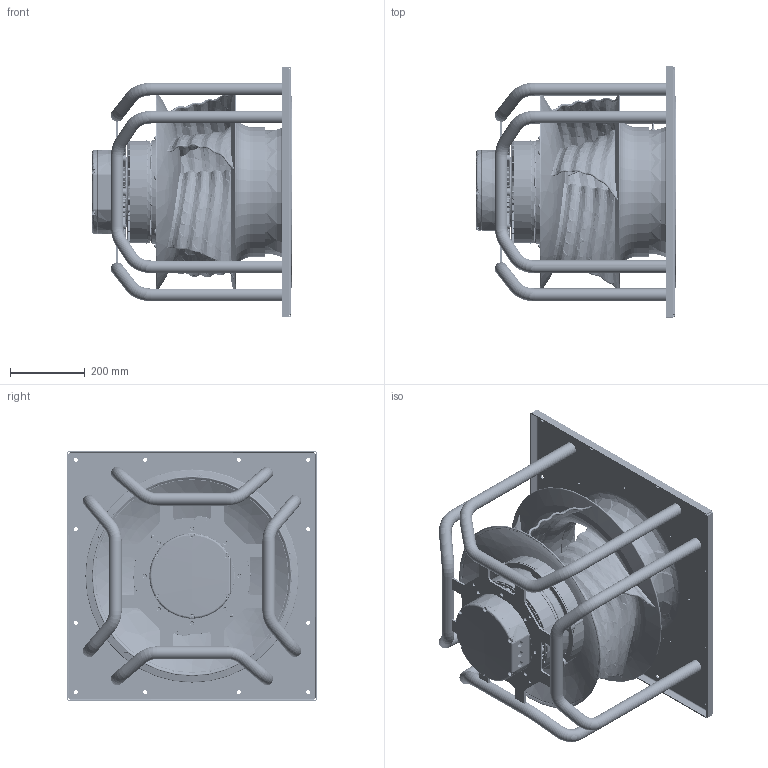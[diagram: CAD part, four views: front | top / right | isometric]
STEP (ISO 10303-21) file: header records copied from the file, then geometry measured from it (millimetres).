
FILE_DESCRIPTION((''),'2;1');
FILE_NAME('ZAC_08-44-17-KM','2019-01-25T',('hummt'),(''),'CREO PARAMETRIC BY PTC INC, 2017170','CREO PARAMETRIC BY PTC INC, 2017170','');
FILE_SCHEMA(('AUTOMOTIVE_DESIGN { 1 0 10303 214 1 1 1 1 }'));
Length unit declared in the file: millimetre
Products named in the file (1): ZAC_08-44-17-KM
Bounding box: 535.5 x 670 x 670 mm (x, y, z)
Volume: 16205876.2 mm3; surface area: 4203823.8 mm2
Topology: 2 solids, 2 shells, 7741 faces, 19519 edges, 11882 vertices
Faces by surface type: bspline 2238, plane 1785, cylinder 1268, torus 1139, cone 827, extrusion 434, sphere 42, revolution 8
Entity records: 464347 total; most frequent: CARTESIAN_POINT 285917, ORIENTED_EDGE 39028, DIRECTION 30478, EDGE_CURVE 19514, AXIS2_PLACEMENT_3D 12504, VERTEX_POINT 11882, EDGE_LOOP 8106, FACE_OUTER_BOUND 7741
